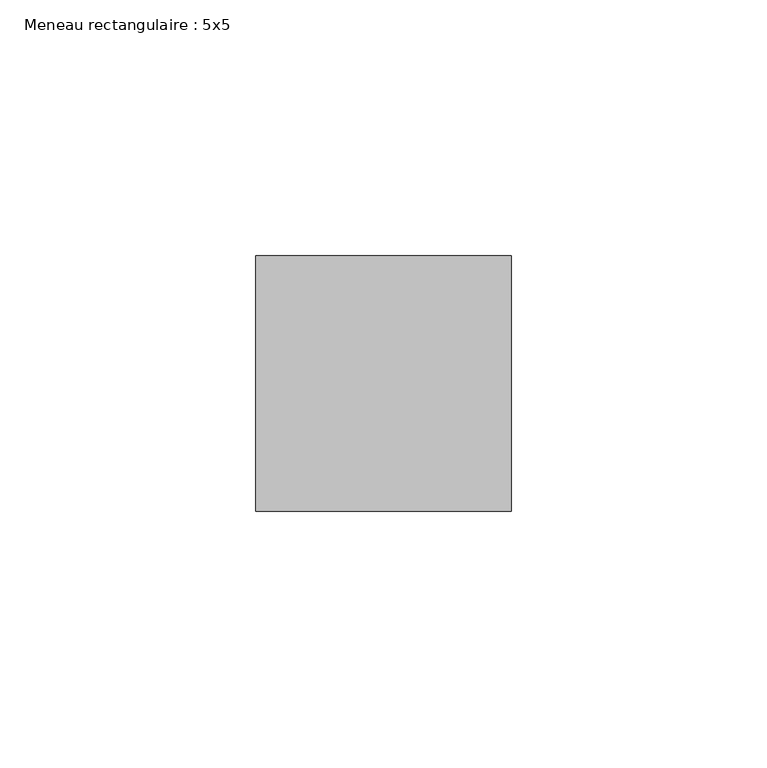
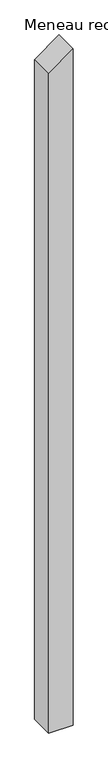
"""IFC4 building model written with IfcOpenShell, lengths in millimetres: member geometry, Meneau rectangulaire : 5x5."""

from ifc_helpers import new_model, si_unit, frame, origin, place, context, project, spatial, polyline, outline, extrude, source, transform, mapped, element, save


def meneau_rectangulaire_5x5_8b820364(model_context):
    return source(origin(), model_context, "Body", "SweptSolid", [
        extrude(outline(polyline([(0.0, 0.0), (-37.2015325, -50.0), (-1476.0853353, -50.0), (-1476.0853353, 0.0), (0.0, 0.0)])), frame((0.0, -25.0, 0.0), z_axis=(0.0, 1.0, 0.0), x_axis=(0.0, 0.0, 1.0)), (0.0, 0.0, 1.0), 50.0),
    ])


if __name__ == "__main__":
    model = new_model("IFC4")
    model_context = context("Model", 3, world=origin())
    ifc_project = project(units=[si_unit("LENGTHUNIT", "METRE", prefix="MILLI")], contexts=[model_context])
    site = spatial("IfcSite", under=ifc_project)
    building = spatial("IfcBuilding", under=site)
    placement = place(None, origin())
    meneau_rectangulaire_5x5_shape = meneau_rectangulaire_5x5_8b820364(model_context)
    element("IfcMember", 1, ObjectType="Meneau rectangulaire : 5x5", at=placement, inside=building, context=model_context, shape_type="MappedRepresentation", body=[
        mapped(meneau_rectangulaire_5x5_shape, transform((0.0, 0.0, 0.0), x_axis=(1.0, 0.0, 0.0), y_axis=(0.0, 1.0, 0.0), z_axis=(0.0, 0.0, 1.0))),
    ])
    save(model, "model.ifc")
